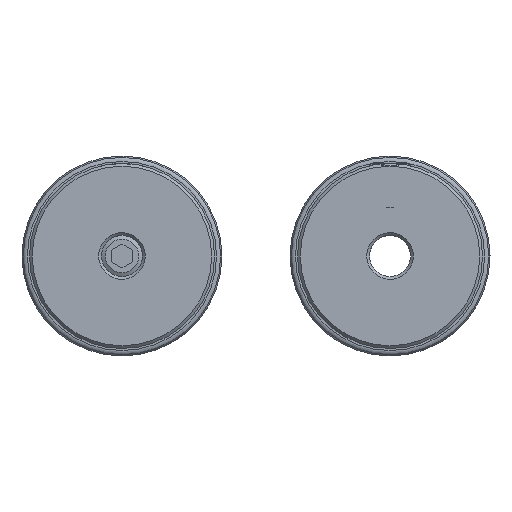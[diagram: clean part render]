
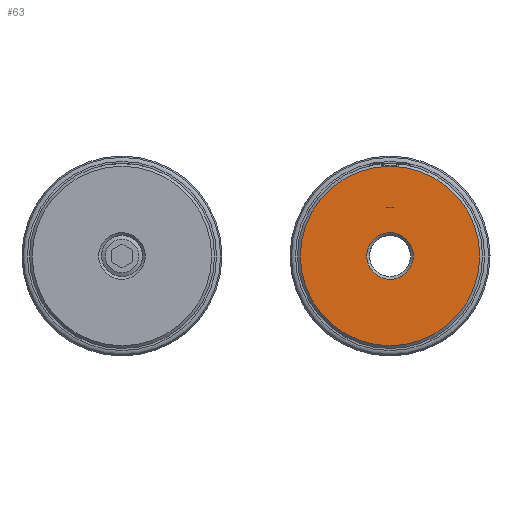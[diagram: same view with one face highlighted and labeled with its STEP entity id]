
A CAD part, left-side view. The second image highlights one B-rep face of the part: STEP entity #63.
In plain terms, the highlighted planar face has unit normal (-1, 0, 0).
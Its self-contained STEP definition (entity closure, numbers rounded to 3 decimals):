
#63 = ADVANCED_FACE( 'NONE', ( #115, #116 ), #117, .F. );
#115 = FACE_OUTER_BOUND( '', #182, .T. );
#116 = FACE_BOUND( '', #183, .T. );
#117 = PLANE( '', #184 );
#182 = EDGE_LOOP( '', ( #350 ) );
#183 = EDGE_LOOP( '', ( #351 ) );
#184 = AXIS2_PLACEMENT_3D( '', #352, #353, #354 );
#350 = ORIENTED_EDGE( '', *, *, #728, .T. );
#351 = ORIENTED_EDGE( '', *, *, #729, .T. );
#352 = CARTESIAN_POINT( '', ( 0., 1.5, 0. ) );
#353 = DIRECTION( '', ( 1., 0., 0. ) );
#354 = DIRECTION( '', ( 0., 1., 0. ) );
#728 = EDGE_CURVE( 'NONE', #1069, #1069, #1070, .F. );
#729 = EDGE_CURVE( 'NONE', #1071, #1071, #1072, .T. );
#1069 = VERTEX_POINT( '', #1664 );
#1070 = CIRCLE( '', #1665, 6.55 );
#1071 = VERTEX_POINT( '', #1666 );
#1072 = CIRCLE( '', #1667, 1.7 );
#1664 = CARTESIAN_POINT( '', ( 0., 0., -6.55 ) );
#1665 = AXIS2_PLACEMENT_3D( '', #1866, #1867, #1868 );
#1666 = CARTESIAN_POINT( '', ( 0., 0., -1.7 ) );
#1667 = AXIS2_PLACEMENT_3D( '', #1869, #1870, #1871 );
#1866 = CARTESIAN_POINT( '', ( 0., 0., 0. ) );
#1867 = DIRECTION( '', ( 1., 0., 0. ) );
#1868 = DIRECTION( '', ( 0., 0., -1. ) );
#1869 = CARTESIAN_POINT( '', ( 0., 0., 0. ) );
#1870 = DIRECTION( '', ( 1., 0., 0. ) );
#1871 = DIRECTION( '', ( 0., 0., -1. ) );
